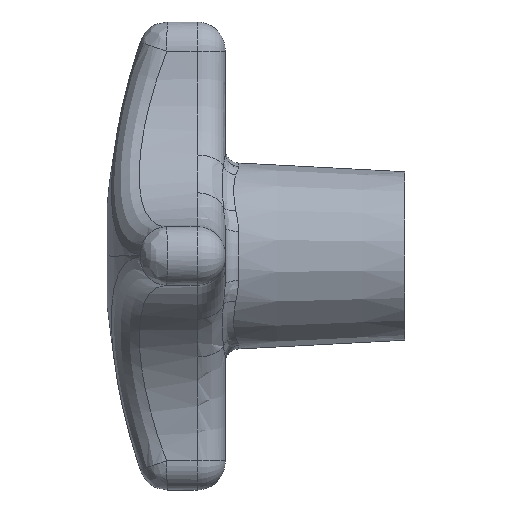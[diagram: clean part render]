
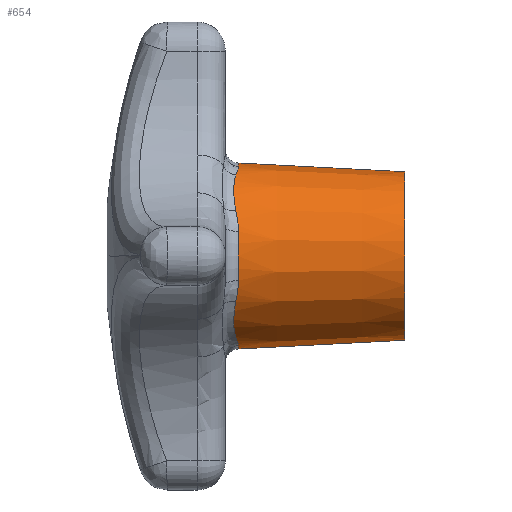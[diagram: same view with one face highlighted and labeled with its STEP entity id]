
A CAD part, left-side view. The second image highlights one B-rep face of the part: STEP entity #654.
In plain terms, the highlighted conical face has half-angle 3 degrees and reference radius 9 mm.
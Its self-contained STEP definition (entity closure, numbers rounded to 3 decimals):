
#22 = CARTESIAN_POINT ( 'NONE',  ( -2.63, -1.421, 9.577 ) ) ;
#124 = ORIENTED_EDGE ( 'NONE', *, *, #3502, .T. ) ;
#153 = EDGE_CURVE ( 'NONE', #1327, #3086, #692, .T. ) ;
#155 = CIRCLE ( 'NONE', #672, 9.932 ) ;
#161 = CARTESIAN_POINT ( 'NONE',  ( 0., -1.421, 0. ) ) ;
#180 = CARTESIAN_POINT ( 'NONE',  ( -4.887, -1.126, 8.664 ) ) ;
#229 = DIRECTION ( 'NONE',  ( 0., 0., 1. ) ) ;
#234 = CARTESIAN_POINT ( 'NONE',  ( -8.446, -1.043, -5.282 ) ) ;
#314 = EDGE_CURVE ( 'NONE', #3086, #1036, #2696, .T. ) ;
#316 = VERTEX_POINT ( 'NONE', #1677 ) ;
#370 = CARTESIAN_POINT ( 'NONE',  ( -8.446, -1.043, 5.281 ) ) ;
#383 = CIRCLE ( 'NONE', #1556, 9.932 ) ;
#416 = VECTOR ( 'NONE', #3256, 1000. ) ;
#478 = DIRECTION ( 'NONE',  ( 0., 1., 0. ) ) ;
#538 = ORIENTED_EDGE ( 'NONE', *, *, #1245, .T. ) ;
#569 = CARTESIAN_POINT ( 'NONE',  ( -8.201, -0.998, -5.659 ) ) ;
#576 = EDGE_CURVE ( 'NONE', #2163, #2617, #2560, .T. ) ;
#607 = CARTESIAN_POINT ( 'NONE',  ( 0., -19.2, 9. ) ) ;
#633 = CARTESIAN_POINT ( 'NONE',  ( -6.718, -0.921, 7.365 ) ) ;
#644 = CARTESIAN_POINT ( 'NONE',  ( -9.577, -1.421, -2.63 ) ) ;
#654 = ADVANCED_FACE ( 'NONE', ( #1497 ), #2162, .T. ) ;
#672 = AXIS2_PLACEMENT_3D ( 'NONE', #2655, #2949, #2053 ) ;
#675 = EDGE_CURVE ( 'NONE', #2296, #3508, #383, .T. ) ;
#692 = B_SPLINE_CURVE_WITH_KNOTS ( 'NONE', 3,
 ( #3619, #3357, #1076, #1333 ),
 .UNSPECIFIED., .F., .F.,
 ( 4, 4 ),
 ( 0., 0.002 ),
 .UNSPECIFIED. ) ;
#739 = CARTESIAN_POINT ( 'NONE',  ( 0., -1.421, -9.932 ) ) ;
#745 = B_SPLINE_CURVE_WITH_KNOTS ( 'NONE', 3,
 ( #791, #1944, #2208, #1102 ),
 .UNSPECIFIED., .F., .F.,
 ( 4, 4 ),
 ( 0., 0.002 ),
 .UNSPECIFIED. ) ;
#791 = CARTESIAN_POINT ( 'NONE',  ( -4.887, -1.126, -8.664 ) ) ;
#797 = VERTEX_POINT ( 'NONE', #1393 ) ;
#802 = EDGE_CURVE ( 'NONE', #1036, #2296, #745, .T. ) ;
#811 = ORIENTED_EDGE ( 'NONE', *, *, #153, .T. ) ;
#833 = CARTESIAN_POINT ( 'NONE',  ( 0., -19.2, 0. ) ) ;
#884 = ORIENTED_EDGE ( 'NONE', *, *, #314, .T. ) ;
#914 = AXIS2_PLACEMENT_3D ( 'NONE', #2852, #3400, #1975 ) ;
#930 = EDGE_CURVE ( 'NONE', #1774, #1658, #1033, .T. ) ;
#1002 = CIRCLE ( 'NONE', #2257, 9.932 ) ;
#1033 = B_SPLINE_CURVE_WITH_KNOTS ( 'NONE', 3,
 ( #3571, #3031, #2439, #180 ),
 .UNSPECIFIED., .F., .F.,
 ( 4, 4 ),
 ( 0., 0.002 ),
 .UNSPECIFIED. ) ;
#1036 = VERTEX_POINT ( 'NONE', #1394 ) ;
#1072 = ORIENTED_EDGE ( 'NONE', *, *, #2803, .T. ) ;
#1076 = CARTESIAN_POINT ( 'NONE',  ( -9.056, -1.276, -4.177 ) ) ;
#1102 = CARTESIAN_POINT ( 'NONE',  ( -2.63, -1.421, -9.577 ) ) ;
#1159 = ORIENTED_EDGE ( 'NONE', *, *, #3609, .F. ) ;
#1164 = ORIENTED_EDGE ( 'NONE', *, *, #930, .T. ) ;
#1224 = CARTESIAN_POINT ( 'NONE',  ( -6.377, -0.936, 7.661 ) ) ;
#1245 = EDGE_CURVE ( 'NONE', #1658, #1781, #3553, .T. ) ;
#1307 = LINE ( 'NONE', #2646, #416 ) ;
#1327 = VERTEX_POINT ( 'NONE', #644 ) ;
#1333 = CARTESIAN_POINT ( 'NONE',  ( -8.664, -1.126, -4.887 ) ) ;
#1357 = CARTESIAN_POINT ( 'NONE',  ( -9.056, -1.276, 4.177 ) ) ;
#1365 = AXIS2_PLACEMENT_3D ( 'NONE', #833, #478, #229 ) ;
#1393 = CARTESIAN_POINT ( 'NONE',  ( -9.577, -1.421, 2.63 ) ) ;
#1394 = CARTESIAN_POINT ( 'NONE',  ( -4.887, -1.126, -8.664 ) ) ;
#1397 = CARTESIAN_POINT ( 'NONE',  ( -6.72, -0.921, -7.363 ) ) ;
#1409 = CARTESIAN_POINT ( 'NONE',  ( -6.377, -0.936, -7.66 ) ) ;
#1422 = CARTESIAN_POINT ( 'NONE',  ( -5.659, -0.998, -8.201 ) ) ;
#1436 = CARTESIAN_POINT ( 'NONE',  ( -4.887, -1.126, -8.664 ) ) ;
#1497 = FACE_OUTER_BOUND ( 'NONE', #3345, .T. ) ;
#1503 = CARTESIAN_POINT ( 'NONE',  ( -7.363, -0.921, 6.72 ) ) ;
#1556 = AXIS2_PLACEMENT_3D ( 'NONE', #1923, #3092, #2517 ) ;
#1572 = DIRECTION ( 'NONE',  ( 0., 0., -1. ) ) ;
#1635 = CARTESIAN_POINT ( 'NONE',  ( -4.887, -1.126, 8.664 ) ) ;
#1658 = VERTEX_POINT ( 'NONE', #1635 ) ;
#1677 = CARTESIAN_POINT ( 'NONE',  ( 0., -1.421, 9.932 ) ) ;
#1718 = EDGE_CURVE ( 'NONE', #2617, #316, #3603, .T. ) ;
#1749 = EDGE_CURVE ( 'NONE', #1781, #797, #2725, .T. ) ;
#1774 = VERTEX_POINT ( 'NONE', #22 ) ;
#1781 = VERTEX_POINT ( 'NONE', #2569 ) ;
#1817 = CARTESIAN_POINT ( 'NONE',  ( -4.887, -1.126, 8.664 ) ) ;
#1860 = CARTESIAN_POINT ( 'NONE',  ( 0., -19.2, -9. ) ) ;
#1923 = CARTESIAN_POINT ( 'NONE',  ( 0., -1.421, 0. ) ) ;
#1942 = CARTESIAN_POINT ( 'NONE',  ( -8.664, -1.126, -4.887 ) ) ;
#1943 = CARTESIAN_POINT ( 'NONE',  ( -2.63, -1.421, -9.577 ) ) ;
#1944 = CARTESIAN_POINT ( 'NONE',  ( -4.177, -1.276, -9.056 ) ) ;
#1975 = DIRECTION ( 'NONE',  ( 0., 0., 1. ) ) ;
#1979 = CARTESIAN_POINT ( 'NONE',  ( -9.358, -1.421, 3.429 ) ) ;
#2053 = DIRECTION ( 'NONE',  ( 0., 0., -1. ) ) ;
#2071 = CARTESIAN_POINT ( 'NONE',  ( -7.66, -0.936, 6.377 ) ) ;
#2085 = CARTESIAN_POINT ( 'NONE',  ( -5.659, -0.998, 8.201 ) ) ;
#2096 = ORIENTED_EDGE ( 'NONE', *, *, #675, .T. ) ;
#2162 = CONICAL_SURFACE ( 'NONE', #1365, 9., 0.052 ) ;
#2163 = VERTEX_POINT ( 'NONE', #1860 ) ;
#2208 = CARTESIAN_POINT ( 'NONE',  ( -3.429, -1.421, -9.358 ) ) ;
#2257 = AXIS2_PLACEMENT_3D ( 'NONE', #161, #2750, #1572 ) ;
#2296 = VERTEX_POINT ( 'NONE', #1943 ) ;
#2374 = CARTESIAN_POINT ( 'NONE',  ( -5.282, -1.043, 8.446 ) ) ;
#2377 = CARTESIAN_POINT ( 'NONE',  ( -8.664, -1.126, -4.887 ) ) ;
#2439 = CARTESIAN_POINT ( 'NONE',  ( -4.177, -1.276, 9.056 ) ) ;
#2455 = ORIENTED_EDGE ( 'NONE', *, *, #802, .T. ) ;
#2517 = DIRECTION ( 'NONE',  ( 0., 0., -1. ) ) ;
#2525 = CARTESIAN_POINT ( 'NONE',  ( -9.577, -1.421, 2.63 ) ) ;
#2537 = CARTESIAN_POINT ( 'NONE',  ( -5.281, -1.043, -8.446 ) ) ;
#2547 = CARTESIAN_POINT ( 'NONE',  ( -7.365, -0.921, -6.718 ) ) ;
#2560 = CIRCLE ( 'NONE', #914, 9. ) ;
#2569 = CARTESIAN_POINT ( 'NONE',  ( -8.664, -1.126, 4.887 ) ) ;
#2617 = VERTEX_POINT ( 'NONE', #607 ) ;
#2646 = CARTESIAN_POINT ( 'NONE',  ( 0., -19.2, -9. ) ) ;
#2655 = CARTESIAN_POINT ( 'NONE',  ( 0., -1.421, 0. ) ) ;
#2696 = B_SPLINE_CURVE_WITH_KNOTS ( 'NONE', 3,
 ( #1942, #234, #569, #3401, #2547, #1397, #1409, #1422, #2537, #1436 ),
 .UNSPECIFIED., .F., .F.,
 ( 4, 2, 2, 2, 4 ),
 ( 0., 0.001, 0.003, 0.004, 0.005 ),
 .UNSPECIFIED. ) ;
#2725 = B_SPLINE_CURVE_WITH_KNOTS ( 'NONE', 3,
 ( #3085, #1357, #1979, #2525 ),
 .UNSPECIFIED., .F., .F.,
 ( 4, 4 ),
 ( 0., 0.002 ),
 .UNSPECIFIED. ) ;
#2750 = DIRECTION ( 'NONE',  ( 0., -1., 0. ) ) ;
#2803 = EDGE_CURVE ( 'NONE', #316, #1774, #155, .T. ) ;
#2852 = CARTESIAN_POINT ( 'NONE',  ( 0., -19.2, 0. ) ) ;
#2891 = ORIENTED_EDGE ( 'NONE', *, *, #576, .T. ) ;
#2949 = DIRECTION ( 'NONE',  ( 0., -1., 0. ) ) ;
#3031 = CARTESIAN_POINT ( 'NONE',  ( -3.429, -1.421, 9.358 ) ) ;
#3085 = CARTESIAN_POINT ( 'NONE',  ( -8.664, -1.126, 4.887 ) ) ;
#3086 = VERTEX_POINT ( 'NONE', #2377 ) ;
#3092 = DIRECTION ( 'NONE',  ( 0., -1., 0. ) ) ;
#3103 = DIRECTION ( 'NONE',  ( 0., 0.999, 0.052 ) ) ;
#3121 = CARTESIAN_POINT ( 'NONE',  ( 0., -19.2, 9. ) ) ;
#3256 = DIRECTION ( 'NONE',  ( 0., 0.999, -0.052 ) ) ;
#3307 = ORIENTED_EDGE ( 'NONE', *, *, #1718, .T. ) ;
#3345 = EDGE_LOOP ( 'NONE', ( #1159, #2891, #3307, #1072, #1164, #538, #3651, #124, #811, #884, #2455, #2096 ) ) ;
#3357 = CARTESIAN_POINT ( 'NONE',  ( -9.358, -1.421, -3.429 ) ) ;
#3400 = DIRECTION ( 'NONE',  ( 0., 1., 0. ) ) ;
#3401 = CARTESIAN_POINT ( 'NONE',  ( -7.661, -0.936, -6.377 ) ) ;
#3463 = CARTESIAN_POINT ( 'NONE',  ( -8.664, -1.126, 4.887 ) ) ;
#3499 = CARTESIAN_POINT ( 'NONE',  ( -8.201, -0.998, 5.659 ) ) ;
#3502 = EDGE_CURVE ( 'NONE', #797, #1327, #1002, .T. ) ;
#3508 = VERTEX_POINT ( 'NONE', #739 ) ;
#3553 = B_SPLINE_CURVE_WITH_KNOTS ( 'NONE', 3,
 ( #1817, #2374, #2085, #1224, #633, #1503, #2071, #3499, #370, #3463 ),
 .UNSPECIFIED., .F., .F.,
 ( 4, 2, 2, 2, 4 ),
 ( 0., 0.001, 0.003, 0.004, 0.005 ),
 .UNSPECIFIED. ) ;
#3571 = CARTESIAN_POINT ( 'NONE',  ( -2.63, -1.421, 9.577 ) ) ;
#3603 = LINE ( 'NONE', #3121, #3645 ) ;
#3609 = EDGE_CURVE ( 'NONE', #2163, #3508, #1307, .T. ) ;
#3619 = CARTESIAN_POINT ( 'NONE',  ( -9.577, -1.421, -2.63 ) ) ;
#3645 = VECTOR ( 'NONE', #3103, 1000. ) ;
#3651 = ORIENTED_EDGE ( 'NONE', *, *, #1749, .T. ) ;
